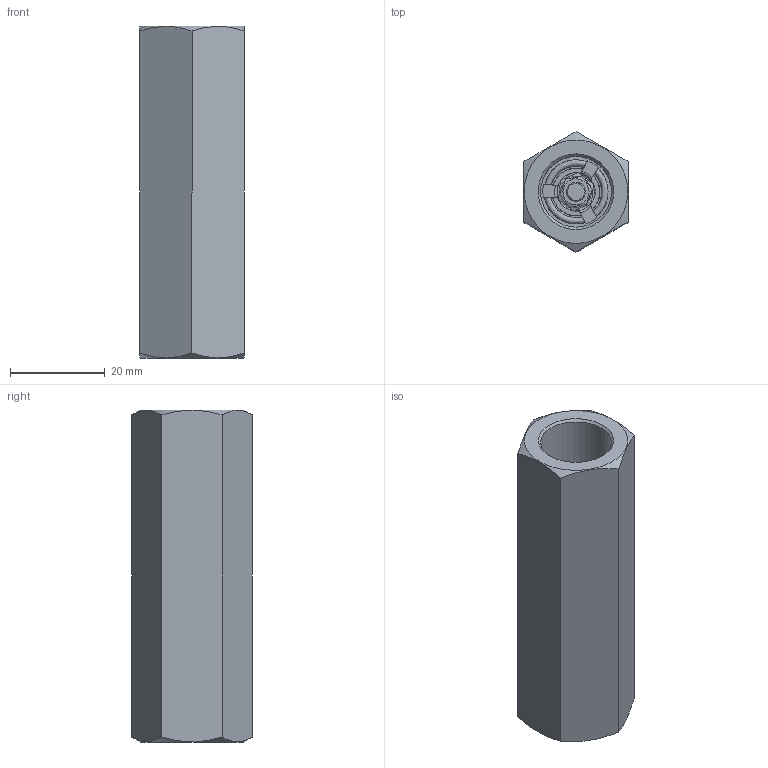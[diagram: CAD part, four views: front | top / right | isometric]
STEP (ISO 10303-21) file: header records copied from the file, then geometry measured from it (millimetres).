
FILE_DESCRIPTION(/* description */ ('Unknown'),/* implementation_level */ '2;1');
FILE_NAME(/* name */ 'VURCFF38',/* time_stamp */ '2024-12-05T10:45:51+01:00',/* author */ ('Unknown'),/* organization */ ('Unknown'),/* preprocessor_version */ 'ST-DEVELOPER v19.4',/* originating_system */ 'Solid Edge',/* authorisation */ 'Unknown');
FILE_SCHEMA (('AUTOMOTIVE_DESIGN {1 0 10303 214 3 1 1}'));
Length unit declared in the file: millimetre
Products named in the file (1): VURCFF38
Bounding box: 22 x 25.4 x 70 mm (x, y, z)
Volume: 19950.2 mm3; surface area: 12307.7 mm2
Topology: 3 solids, 3 shells, 189 faces, 530 edges, 342 vertices
Faces by surface type: plane 84, cylinder 71, cone 20, torus 10, bspline 4
Full cylindrical faces by diameter (mm): 1.1 x1, 2 x8, 2.5 x1, 3.4 x7, 4 x4, 4.15 x2, 4.95 x1, 5.2 x1, 6.45 x1, 7 x1, 8.1 x1, 8.6 x1, 9 x3, 9.1 x1, 9.97 x1, 10.8 x1, 11 x1, 11.5 x1, 14.95 x4
Entity records: 7609 total; most frequent: CARTESIAN_POINT 2030, ORIENTED_EDGE 858, DIRECTION 850, EDGE_CURVE 429, AXIS2_PLACEMENT_3D 356, VERTEX_POINT 308, EDGE_LOOP 299, FACE_BOUND 299
